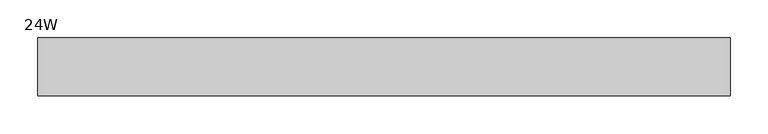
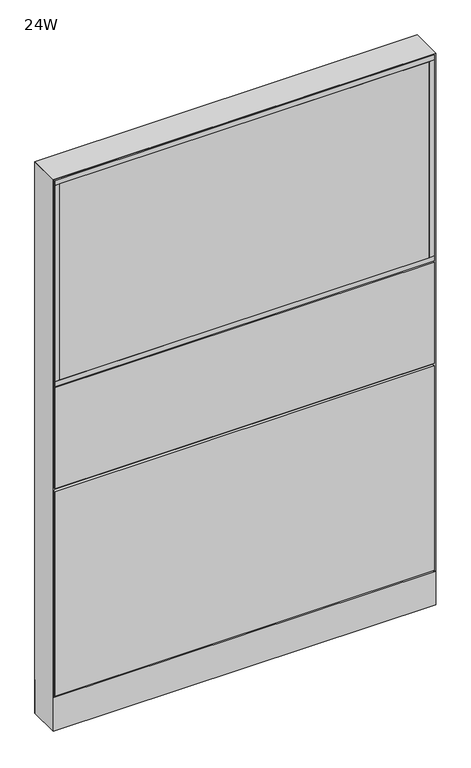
"""IFC4 building model written with IfcOpenShell, lengths in millimetres: furniture geometry, Steelcase - Montage - Frame - 55H - Enhanced Monolithic - Base Cavity : 24W."""

from ifc_helpers import new_model, si_unit, point, frame, frame_2d, origin, origin_with_axes, place, context, project, spatial, polyline, circle_curve, trimmed, segment, composite_curve, outline, extrude, faceted_brep, source, transform, mapped, element, save


def furniture_24w_bf8f6a09(model_context):
    return source(origin(), model_context, "Body", "SolidModel", [
        extrude(outline(polyline([(15.875, 38.1000015), (898.525, 38.1000015), (898.525, 31.7500017), (15.875, 31.7500017), (15.875, 38.1000015)])), frame((0.0, 0.0, 887.4125), z_axis=(0.0, 0.0, 1.0), x_axis=(1.0, 0.0, 0.0)), (0.0, 0.0, 1.0), 495.3),
        extrude(outline(polyline([(15.875, -31.7499985), (898.525, -31.7499985), (898.525, -38.1000015), (15.875, -38.1000015), (15.875, -31.7499985)])), frame((0.0, 0.0, 887.4125), z_axis=(0.0, 0.0, 1.0), x_axis=(1.0, 0.0, 0.0)), (0.0, 0.0, 1.0), 495.3),
        extrude(outline(polyline([(3.175, -38.1000015), (3.175, 38.1000015), (15.875, 38.1000015), (15.875, -38.1000015), (3.175, -38.1000015)])), frame((0.0, 0.0, 887.4125), z_axis=(0.0, 0.0, 1.0), x_axis=(1.0, 0.0, 0.0)), (0.0, 0.0, 1.0), 495.3),
        extrude(outline(polyline([(898.525, -38.1000015), (898.525, 38.1000015), (911.225, 38.1000015), (911.225, -38.1000015), (898.525, -38.1000015)])), frame((0.0, 0.0, 887.4125), z_axis=(0.0, 0.0, 1.0), x_axis=(1.0, 0.0, 0.0)), (0.0, 0.0, 1.0), 495.3),
        extrude(outline(polyline([(3.175, -38.1000015), (3.175, 38.1000015), (911.225, 38.1000015), (911.225, -38.1000015), (3.175, -38.1000015)])), frame((0.0, 0.0, 874.7125), z_axis=(0.0, 0.0, 1.0), x_axis=(1.0, 0.0, 0.0)), (0.0, 0.0, 1.0), 12.7),
        extrude(outline(polyline([(3.175, -38.1000015), (3.175, 38.1000015), (911.225, 38.1000015), (911.225, -38.1000015), (3.175, -38.1000015)])), frame((0.0, 0.0, 1382.7125), z_axis=(0.0, 0.0, 1.0), x_axis=(1.0, 0.0, 0.0)), (0.0, 0.0, 1.0), 12.7),
        extrude(outline(polyline([(911.225, 31.7500194), (3.175, 31.7500194), (3.175, 38.1000194), (911.225, 38.1000194), (911.225, 31.7500194)])), frame((0.0, 0.0, 615.95), z_axis=(0.0, 0.0, 1.0), x_axis=(1.0, 0.0, 0.0)), (0.0, 0.0, 1.0), 255.5875),
        extrude(outline(polyline([(911.225, 31.7500194), (3.175, 31.7500194), (3.175, 38.1000194), (911.225, 38.1000194), (911.225, 31.7500194)])), frame((0.0, 0.0, 92.075), z_axis=(0.0, 0.0, 1.0), x_axis=(1.0, 0.0, 0.0)), (0.0, 0.0, 1.0), 517.525),
        extrude(outline(polyline([(898.525, 38.1000015), (898.525, 31.7500017), (15.875, 31.7500017), (15.875, 38.1000015), (898.525, 38.1000015)])), frame((0.0, 0.0, 887.4125), z_axis=(0.0, 0.0, 1.0), x_axis=(1.0, 0.0, 0.0)), (0.0, 0.0, 1.0), 495.3),
        extrude(outline(polyline([(898.525, -31.7499985), (898.525, -38.1000015), (15.875, -38.1000015), (15.875, -31.7499985), (898.525, -31.7499985)])), frame((0.0, 0.0, 887.4125), z_axis=(0.0, 0.0, 1.0), x_axis=(1.0, 0.0, 0.0)), (0.0, 0.0, 1.0), 495.3),
        extrude(outline(polyline([(911.225, -38.1000015), (898.525, -38.1000015), (898.525, 38.1000015), (911.225, 38.1000015), (911.225, -38.1000015)])), frame((0.0, 0.0, 887.4125), z_axis=(0.0, 0.0, 1.0), x_axis=(1.0, 0.0, 0.0)), (0.0, 0.0, 1.0), 495.3),
        extrude(outline(polyline([(15.875, -38.1000015), (3.175, -38.1000015), (3.175, 38.1000015), (15.875, 38.1000015), (15.875, -38.1000015)])), frame((0.0, 0.0, 887.4125), z_axis=(0.0, 0.0, 1.0), x_axis=(1.0, 0.0, 0.0)), (0.0, 0.0, 1.0), 495.3),
        extrude(outline(polyline([(911.225, -38.1000015), (3.175, -38.1000015), (3.175, 38.1000015), (911.225, 38.1000015), (911.225, -38.1000015)])), frame((0.0, 0.0, 874.7125), z_axis=(0.0, 0.0, 1.0), x_axis=(1.0, 0.0, 0.0)), (0.0, 0.0, 1.0), 12.7),
        extrude(outline(polyline([(911.225, -38.1000015), (3.175, -38.1000015), (3.175, 38.1000015), (911.225, 38.1000015), (911.225, -38.1000015)])), frame((0.0, 0.0, 1382.7125), z_axis=(0.0, 0.0, 1.0), x_axis=(1.0, 0.0, 0.0)), (0.0, 0.0, 1.0), 12.7),
        extrude(outline(polyline([(3.175, 31.7500194), (3.175, 38.1000194), (911.225, 38.1000194), (911.225, 31.7500194), (3.175, 31.7500194)])), frame((0.0, 0.0, 615.95), z_axis=(0.0, 0.0, 1.0), x_axis=(1.0, 0.0, 0.0)), (0.0, 0.0, 1.0), 255.5875),
        extrude(outline(polyline([(3.175, 31.7500194), (3.175, 38.1000194), (911.225, 38.1000194), (911.225, 31.7500194), (3.175, 31.7500194)])), frame((0.0, 0.0, 92.075), z_axis=(0.0, 0.0, 1.0), x_axis=(1.0, 0.0, 0.0)), (0.0, 0.0, 1.0), 517.525),
        extrude(outline(polyline([(898.525, -38.1000015), (15.875, -38.1000015), (15.875, -31.7500017), (898.525, -31.7500017), (898.525, -38.1000015)])), frame((0.0, 0.0, 887.4125), z_axis=(0.0, 0.0, 1.0), x_axis=(1.0, 0.0, 0.0)), (0.0, 0.0, 1.0), 495.3),
        extrude(outline(polyline([(898.525, 31.7499985), (15.875, 31.7499985), (15.875, 38.1000015), (898.525, 38.1000015), (898.525, 31.7499985)])), frame((0.0, 0.0, 887.4125), z_axis=(0.0, 0.0, 1.0), x_axis=(1.0, 0.0, 0.0)), (0.0, 0.0, 1.0), 495.3),
        extrude(outline(polyline([(911.225, 38.1000015), (911.225, -38.1000015), (898.525, -38.1000015), (898.525, 38.1000015), (911.225, 38.1000015)])), frame((0.0, 0.0, 887.4125), z_axis=(0.0, 0.0, 1.0), x_axis=(1.0, 0.0, 0.0)), (0.0, 0.0, 1.0), 495.3),
        extrude(outline(polyline([(15.875, 38.1000015), (15.875, -38.1000015), (3.175, -38.1000015), (3.175, 38.1000015), (15.875, 38.1000015)])), frame((0.0, 0.0, 887.4125), z_axis=(0.0, 0.0, 1.0), x_axis=(1.0, 0.0, 0.0)), (0.0, 0.0, 1.0), 495.3),
        extrude(outline(polyline([(911.225, 38.1000015), (911.225, -38.1000015), (3.175, -38.1000015), (3.175, 38.1000015), (911.225, 38.1000015)])), frame((0.0, 0.0, 874.7125), z_axis=(0.0, 0.0, 1.0), x_axis=(1.0, 0.0, 0.0)), (0.0, 0.0, 1.0), 12.7),
        extrude(outline(polyline([(911.225, 38.1000015), (911.225, -38.1000015), (3.175, -38.1000015), (3.175, 38.1000015), (911.225, 38.1000015)])), frame((0.0, 0.0, 1382.7125), z_axis=(0.0, 0.0, 1.0), x_axis=(1.0, 0.0, 0.0)), (0.0, 0.0, 1.0), 12.7),
        extrude(outline(polyline([(3.175, -31.7500194), (911.225, -31.7500194), (911.225, -38.1000194), (3.175, -38.1000194), (3.175, -31.7500194)])), frame((0.0, 0.0, 615.95), z_axis=(0.0, 0.0, 1.0), x_axis=(1.0, 0.0, 0.0)), (0.0, 0.0, 1.0), 255.5875),
        extrude(outline(polyline([(3.175, -31.7500194), (911.225, -31.7500194), (911.225, -38.1000194), (3.175, -38.1000194), (3.175, -31.7500194)])), frame((0.0, 0.0, 92.075), z_axis=(0.0, 0.0, 1.0), x_axis=(1.0, 0.0, 0.0)), (0.0, 0.0, 1.0), 517.525),
        extrude(outline(polyline([(6.350003, -31.7499985), (908.049997, -31.7499985), (914.4, -38.1000015), (0.0, -38.1000015), (6.350003, -31.7499985)])), frame((0.0, 0.0, 4.064), z_axis=(0.0, 0.0, 1.0), x_axis=(1.0, 0.0, 0.0)), (0.0, 0.0, 1.0), 84.835997),
        extrude(outline(polyline([(6.3500002, 31.7500017), (0.0, 38.1000015), (914.4, 38.1000015), (908.0500002, 31.7500017), (6.3500002, 31.7500017)])), frame((0.0, 0.0, 4.064), z_axis=(0.0, 0.0, 1.0), x_axis=(1.0, 0.0, 0.0)), (0.0, 0.0, 1.0), 84.835997),
        faceted_brep([(914.4, -38.1000015, 1398.5875), (0.0, -38.1000015, 1398.5875), (6.3500484, -31.749953, 1392.2374516), (908.0499516, -31.749953, 1392.2374516), (6.3500484, 31.749953, 1392.2374516), (908.0499516, 31.749953, 1392.2374516), (0.0, 38.1000015, 1398.5875), (914.4, 38.1000015, 1398.5875)], [[[0, 1, 2, 3]], [[3, 2, 4, 5]], [[6, 7, 5, 4]], [[1, 0, 7, 6]], [[2, 1, 6, 4]], [[0, 3, 5, 7]]]),
        extrude(outline(composite_curve([segment(trimmed(circle_curve(frame_2d((44.45, 0.0)), 15.24), [point((29.21, 0.0))], [point((59.69, 0.0))], False, "CARTESIAN"), True, "CONTINUOUS"), segment(trimmed(circle_curve(frame_2d((44.45, 0.0)), 15.24), [point((59.69, 0.0))], [point((29.21, 0.0))], False, "CARTESIAN"), True, "CONTINUOUS")], self_intersect=False)), origin_with_axes(), (0.0, 0.0, 1.0), 4.064),
        extrude(outline(composite_curve([segment(trimmed(circle_curve(frame_2d((869.95, 0.0)), 15.24), [point((854.71, 0.0))], [point((885.19, 0.0))], False, "CARTESIAN"), True, "CONTINUOUS"), segment(trimmed(circle_curve(frame_2d((869.95, 0.0)), 15.24), [point((885.19, 0.0))], [point((854.71, 0.0))], False, "CARTESIAN"), True, "CONTINUOUS")], self_intersect=False)), origin_with_axes(), (0.0, 0.0, 1.0), 4.064),
        faceted_brep([(914.4, -38.1000106, 4.064), (914.4, 38.1000015, 4.064), (914.4, 38.1000015, 1398.5875), (914.4, -38.1000106, 1398.5874637), (0.0, 38.1000015, 4.064), (0.0, -38.1000015, 4.064), (0.0, -38.1000015, 1398.5875), (0.0, 38.1000015, 1398.5875), (908.0499879, 31.7500017, 606.425), (6.35, 31.7500017, 606.425), (6.3499998, 31.7500017, 619.125), (908.0499879, 31.7500017, 619.125), (6.35, -31.7499985, 619.125), (908.0499879, -31.7499985, 619.125), (6.350003, -31.7499985, 606.425), (908.0499879, -31.7499985, 606.425), (6.35, 31.7500015, 4.064), (6.35, -31.7500015, 4.064), (908.0499879, 31.7499894, 4.064), (908.0499879, -31.7499985, 4.064), (6.35, 31.7500015, 1392.2375), (6.35, -31.7500015, 1392.2375), (908.0499879, -31.7499985, 1392.2374516), (908.0499879, 31.7499895, 1392.2374516)], [[[0, 1, 2, 3]], [[4, 5, 6, 7]], [[8, 9, 10, 11]], [[11, 10, 12, 13]], [[13, 12, 14, 15]], [[9, 8, 15, 14]], [[16, 17, 5, 4]], [[18, 1, 0, 19]], [[16, 4, 7, 20, 10, 9]], [[5, 17, 14, 12, 21, 6]], [[17, 16, 9, 14]], [[12, 10, 20, 21]], [[18, 19, 15, 8]], [[11, 13, 22, 23]], [[19, 0, 3, 22, 13, 15]], [[1, 18, 8, 11, 23, 2]], [[7, 6, 21, 20]], [[3, 2, 23, 22]]]),
    ])


if __name__ == "__main__":
    model = new_model("IFC4")
    model_context = context("Model", 3, world=origin())
    ifc_project = project(units=[si_unit("LENGTHUNIT", "METRE", prefix="MILLI")], contexts=[model_context])
    site = spatial("IfcSite", under=ifc_project)
    building = spatial("IfcBuilding", under=site)
    placement = place(None, origin())
    furniture_24w_shape = furniture_24w_bf8f6a09(model_context)
    element("IfcFurniture", 1, ObjectType="Steelcase - Montage - Frame - 55H - Enhanced Monolithic - Base Cavity : 24W", at=placement, inside=building, context=model_context, shape_type="MappedRepresentation", body=[
        mapped(furniture_24w_shape, transform((0.0, 0.0, 0.0), x_axis=(1.0, 0.0, 0.0), y_axis=(0.0, 1.0, 0.0), z_axis=(0.0, 0.0, 1.0))),
    ])
    save(model, "model.ifc")
